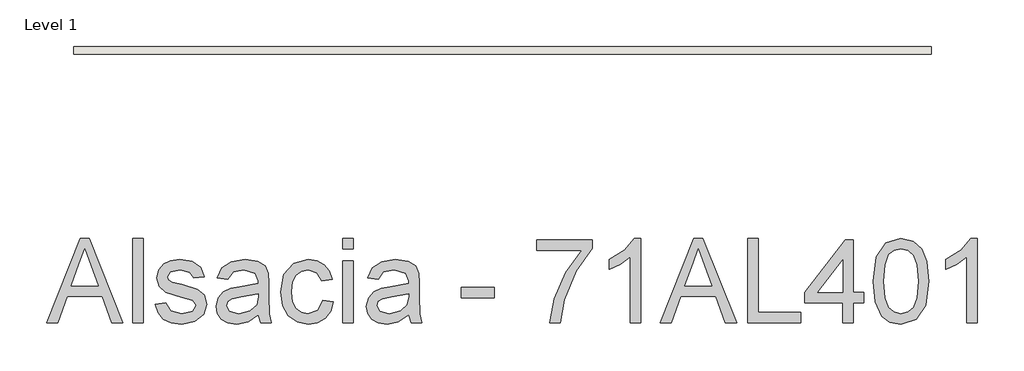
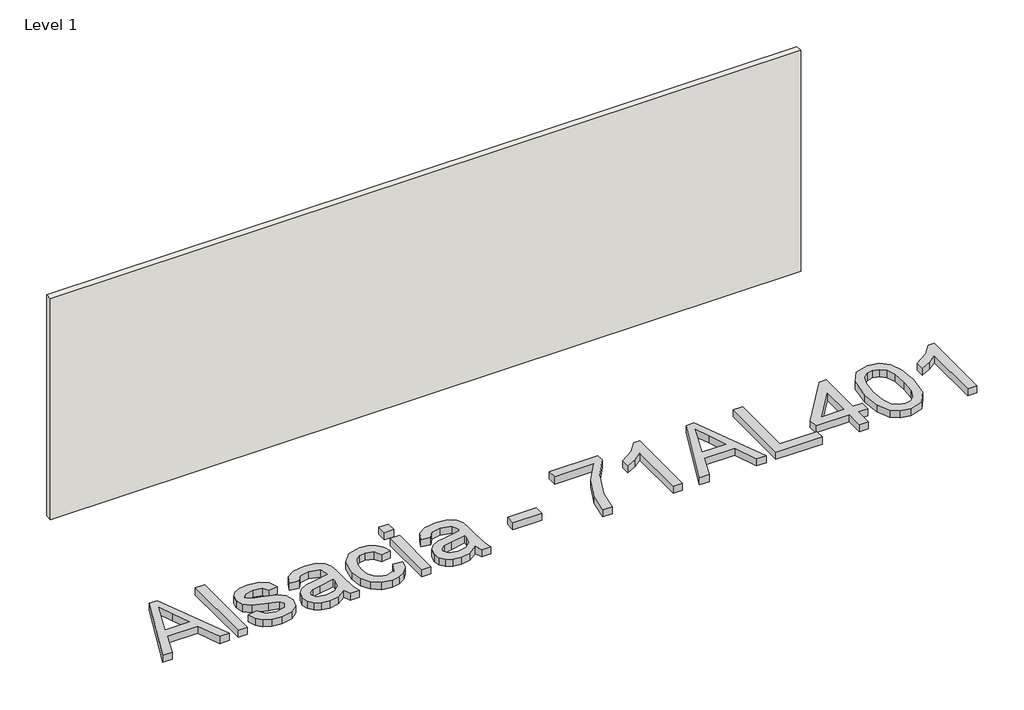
# One storey: 1 proxy, 1 wall.
"""IFC4 building model written with IfcOpenShell, lengths in millimetres."""

from ifc_helpers import new_model, si_unit, origin, origin_with_axes, place, context, project, spatial, polyline, outline, extrude, element, save

model = new_model("IFC4")

# Units and contexts
model_context = context("Model", 3, world=origin())
ifc_project = project(units=[si_unit("LENGTHUNIT", "METRE", prefix="MILLI")], contexts=[model_context])

# Site, building, storey
site = spatial("IfcSite", under=ifc_project)
building = spatial("IfcBuilding", under=site)
storey = spatial("IfcBuildingStorey", under=building, Name="Level 1", Elevation=0.0)

# Proxy
placement = place(None, origin())
element("IfcBuildingElementProxy", 1, Name="24\" Arial", ObjectType="24\" Arial", at=placement, inside=storey, context=model_context, shape_type="SweptSolid", body=[
    extrude(outline(polyline([(-2394.4202482, 2406.5759171), (-2355.1173635, 2505.0374556), (-2344.6365943, 2505.0374556), (-2305.3337097, 2406.5759171), (-2318.3385174, 2406.5759171), (-2329.6125559, 2437.3451479), (-2370.1654405, 2437.3451479), (-2381.4154405, 2406.5759171), (-2394.4202482, 2406.5759171)]), holes=[polyline([(-2365.6462097, 2449.6528402), (-2334.1077482, 2449.6528402), (-2342.9779405, 2473.8595709), (-2349.8769789, 2492.7297632), (-2356.0067866, 2475.9749556), (-2365.6462097, 2449.6528402)])]), origin_with_axes(), (0.0, 0.0, 1.0), 10.0),
    extrude(outline(polyline([(-2293.7231328, 2406.5759171), (-2293.7231328, 2505.0374556), (-2281.4154405, 2505.0374556), (-2281.4154405, 2406.5759171), (-2293.7231328, 2406.5759171)])), origin_with_axes(), (0.0, 0.0, 1.0), 10.0),
    extrude(outline(polyline([(-2267.5692866, 2428.1143786), (-2255.2615943, 2429.6528402), (-2249.5644789, 2420.5182248), (-2236.5115943, 2417.3451479), (-2223.9635174, 2420.2538017), (-2219.8769789, 2427.0807248), (-2223.9875559, 2432.6095709), (-2236.6558251, 2436.1191863), (-2255.1894789, 2442.1408209), (-2263.2784212, 2449.1720709), (-2266.0308251, 2459.0999556), (-2263.8192866, 2468.2706286), (-2257.7856328, 2475.2778402), (-2249.9611135, 2478.9196671), (-2239.3721712, 2480.4220709), (-2224.3962097, 2478.0062056), (-2214.8769789, 2471.467744), (-2210.6462097, 2460.4220709), (-2222.953902, 2458.8836094), (-2227.5813059, 2465.6744748), (-2238.4106328, 2468.1143786), (-2250.1894789, 2465.7826479), (-2253.7231328, 2460.3499556), (-2252.2567866, 2456.7682248), (-2247.6654405, 2454.0518786), (-2237.0644789, 2451.4316863), (-2218.9995751, 2445.6384171), (-2210.610152, 2439.0759171), (-2207.5692866, 2428.3788017), (-2211.1389982, 2416.5999556), (-2221.4394789, 2408.0542825), (-2236.6798635, 2405.0374556), (-2249.0897193, 2406.4917825), (-2258.1462097, 2410.8547632), (-2264.1918828, 2418.0783209), (-2267.5692866, 2428.1143786)])), origin_with_axes(), (0.0, 0.0, 1.0), 10.0),
    extrude(outline(polyline([(-2147.5692866, 2415.8066863), (-2159.5043828, 2407.4653402), (-2172.6894789, 2405.0374556), (-2182.9749357, 2406.4977921), (-2190.5620751, 2410.8788017), (-2195.2405607, 2417.5314459), (-2196.8000559, 2425.8066863), (-2194.4442866, 2435.5422632), (-2188.2543828, 2442.6095709), (-2179.6365943, 2446.6480325), (-2168.9875559, 2448.498994), (-2147.641402, 2452.7297632), (-2147.5692866, 2455.4701479), (-2150.9587097, 2464.5566863), (-2164.5644789, 2468.1143786), (-2177.016402, 2465.7465902), (-2182.953902, 2457.3451479), (-2195.2615943, 2458.8836094), (-2189.9370751, 2470.9028402), (-2179.2159212, 2477.9461094), (-2162.9779405, 2480.4220709), (-2148.0620751, 2478.2345709), (-2139.6365943, 2472.7417825), (-2135.8625559, 2464.3884171), (-2135.2615943, 2453.6191863), (-2135.2615943, 2438.3066863), (-2134.6365943, 2416.9244748), (-2132.1846712, 2406.5759171), (-2144.4923635, 2406.5759171), (-2147.5692866, 2415.8066863)]), holes=[polyline([(-2147.5692866, 2440.4220709), (-2167.4250559, 2436.6480325), (-2178.0139982, 2434.6528402), (-2182.8096712, 2431.4076479), (-2184.4923635, 2426.6720709), (-2180.8264982, 2420.0134171), (-2170.0692866, 2417.3451479), (-2157.6173635, 2420.2898594), (-2149.5885174, 2427.4172632), (-2147.641402, 2436.936494), (-2147.5692866, 2440.4220709)])]), origin_with_axes(), (0.0, 0.0, 1.0), 10.0),
    extrude(outline(polyline([(-2072.1846712, 2432.7297632), (-2059.8769789, 2431.1913017), (-2063.3084693, 2420.2447873), (-2069.7567866, 2411.9725517), (-2078.6149597, 2406.7712296), (-2089.2760174, 2405.0374556), (-2102.3679645, 2407.4563257), (-2112.6053443, 2414.7129363), (-2119.2129164, 2426.4887777), (-2121.4154405, 2442.4653402), (-2117.6534212, 2462.9100517), (-2106.1870751, 2476.0470709), (-2089.4442866, 2480.4220709), (-2079.0446472, 2478.9196671), (-2070.7303443, 2474.4124556), (-2064.765801, 2467.1408209), (-2061.4154405, 2457.3451479), (-2073.7231328, 2455.8066863), (-2079.4322674, 2465.0254363), (-2089.3481328, 2468.1143786), (-2097.3018587, 2466.5939459), (-2103.6149597, 2462.0326479), (-2107.734551, 2454.1840902), (-2109.1077482, 2442.8018786), (-2107.7645991, 2431.2664219), (-2103.735152, 2423.3908209), (-2097.5362337, 2418.8565661), (-2089.6846712, 2417.3451479), (-2078.0861135, 2421.1191863), (-2072.1846712, 2432.7297632)])), origin_with_axes(), (0.0, 0.0, 1.0), 10.0),
    extrude(outline(polyline([(-2049.1077482, 2406.5759171), (-2049.1077482, 2478.8836094), (-2036.8000559, 2478.8836094), (-2036.8000559, 2406.5759171), (-2049.1077482, 2406.5759171)])), origin_with_axes(), (0.0, 0.0, 1.0), 10.0),
    extrude(outline(polyline([(-2049.1077482, 2492.7297632), (-2049.1077482, 2505.0374556), (-2036.8000559, 2505.0374556), (-2036.8000559, 2492.7297632), (-2049.1077482, 2492.7297632)])), origin_with_axes(), (0.0, 0.0, 1.0), 10.0),
    extrude(outline(polyline([(-1972.1846712, 2415.8066863), (-1984.1197674, 2407.4653402), (-1997.3048635, 2405.0374556), (-2007.5903203, 2406.4977921), (-2015.1774597, 2410.8788017), (-2019.8559453, 2417.5314459), (-2021.4154405, 2425.8066863), (-2019.0596712, 2435.5422632), (-2012.8697674, 2442.6095709), (-2004.2519789, 2446.6480325), (-1993.6029405, 2448.498994), (-1972.2567866, 2452.7297632), (-1972.1846712, 2455.4701479), (-1975.5740943, 2464.5566863), (-1989.1798635, 2468.1143786), (-2001.6317866, 2465.7465902), (-2007.5692866, 2457.3451479), (-2019.8769789, 2458.8836094), (-2014.5524597, 2470.9028402), (-2003.8313059, 2477.9461094), (-1987.5933251, 2480.4220709), (-1972.6774597, 2478.2345709), (-1964.2519789, 2472.7417825), (-1960.4779405, 2464.3884171), (-1959.8769789, 2453.6191863), (-1959.8769789, 2438.3066863), (-1959.2519789, 2416.9244748), (-1956.8000559, 2406.5759171), (-1969.1077482, 2406.5759171), (-1972.1846712, 2415.8066863)]), holes=[polyline([(-1972.1846712, 2440.4220709), (-1992.0404405, 2436.6480325), (-2002.6293828, 2434.6528402), (-2007.4250559, 2431.4076479), (-2009.1077482, 2426.6720709), (-2005.4418828, 2420.0134171), (-1994.6846712, 2417.3451479), (-1982.2327482, 2420.2898594), (-1974.203902, 2427.4172632), (-1972.2567866, 2436.936494), (-1972.1846712, 2440.4220709)])]), origin_with_axes(), (0.0, 0.0, 1.0), 10.0),
    extrude(outline(polyline([(-1910.6462097, 2435.8066863), (-1910.6462097, 2448.1143786), (-1872.1846712, 2448.1143786), (-1872.1846712, 2435.8066863), (-1910.6462097, 2435.8066863)])), origin_with_axes(), (0.0, 0.0, 1.0), 10.0),
    extrude(outline(polyline([(-1822.953902, 2491.1913017), (-1822.953902, 2503.498994), (-1758.3385174, 2503.498994), (-1758.3385174, 2493.5470709), (-1776.6678443, 2467.0687056), (-1790.6942866, 2433.3307248), (-1795.2615943, 2406.5759171), (-1807.5692866, 2406.5759171), (-1802.6774597, 2434.3403402), (-1789.2519789, 2465.7225517), (-1770.6462097, 2491.1913017), (-1822.953902, 2491.1913017)])), origin_with_axes(), (0.0, 0.0, 1.0), 10.0),
    extrude(outline(polyline([(-1701.4154405, 2406.5759171), (-1713.7231328, 2406.5759171), (-1713.7231328, 2483.3066863), (-1725.3817866, 2475.0013979), (-1738.3385174, 2468.7874556), (-1738.3385174, 2480.4220709), (-1720.297652, 2491.936494), (-1709.3481328, 2505.0374556), (-1701.4154405, 2505.0374556), (-1701.4154405, 2406.5759171)])), origin_with_axes(), (0.0, 0.0, 1.0), 10.0),
    extrude(outline(polyline([(-1679.0356328, 2406.5759171), (-1639.7327482, 2505.0374556), (-1629.2519789, 2505.0374556), (-1589.9490943, 2406.5759171), (-1602.953902, 2406.5759171), (-1614.2279405, 2437.3451479), (-1654.7808251, 2437.3451479), (-1666.0308251, 2406.5759171), (-1679.0356328, 2406.5759171)]), holes=[polyline([(-1650.2615943, 2449.6528402), (-1618.7231328, 2449.6528402), (-1627.5933251, 2473.8595709), (-1634.4923635, 2492.7297632), (-1640.6221712, 2475.9749556), (-1650.2615943, 2449.6528402)])]), origin_with_axes(), (0.0, 0.0, 1.0), 10.0),
    extrude(outline(polyline([(-1576.8000559, 2406.5759171), (-1576.8000559, 2505.0374556), (-1564.4923635, 2505.0374556), (-1564.4923635, 2418.8836094), (-1515.2615943, 2418.8836094), (-1515.2615943, 2406.5759171), (-1576.8000559, 2406.5759171)])), origin_with_axes(), (0.0, 0.0, 1.0), 10.0),
    extrude(outline(polyline([(-1466.0308251, 2406.5759171), (-1466.0308251, 2429.6528402), (-1510.6462097, 2429.6528402), (-1510.6462097, 2441.9605325), (-1462.953902, 2503.498994), (-1453.7231328, 2503.498994), (-1453.7231328, 2441.9605325), (-1441.4154405, 2441.9605325), (-1441.4154405, 2429.6528402), (-1453.7231328, 2429.6528402), (-1453.7231328, 2406.5759171), (-1466.0308251, 2406.5759171)]), holes=[polyline([(-1466.0308251, 2441.9605325), (-1466.0308251, 2479.9893786), (-1495.5019789, 2441.9605325), (-1466.0308251, 2441.9605325)])]), origin_with_axes(), (0.0, 0.0, 1.0), 10.0),
    extrude(outline(polyline([(-1430.6462097, 2455.0134171), (-1427.0284212, 2483.342744), (-1416.2832289, 2499.6768786), (-1398.3385174, 2505.0374556), (-1383.9635174, 2501.8643786), (-1374.0356328, 2492.717744), (-1368.266402, 2478.1504363), (-1366.0308251, 2455.0134171), (-1369.6125559, 2426.8042825), (-1380.3216905, 2410.4340902), (-1398.3385174, 2405.0374556), (-1411.1269789, 2407.3812056), (-1420.8385174, 2414.4124556), (-1428.1942866, 2431.0650998), (-1430.6462097, 2455.0134171)]), holes=[polyline([(-1418.3385174, 2455.0374556), (-1416.8962097, 2435.6774796), (-1412.5692866, 2424.4725517), (-1406.1269789, 2419.1269988), (-1398.3385174, 2417.3451479), (-1390.5500559, 2419.1330084), (-1384.1077482, 2424.4965902), (-1379.7808251, 2435.7075277), (-1378.3385174, 2455.0374556), (-1379.7327482, 2473.9617344), (-1383.9154405, 2485.2538017), (-1390.3457289, 2490.8607729), (-1398.4827482, 2492.7297632), (-1406.1870751, 2491.0831286), (-1412.3769789, 2486.1432248), (-1416.8481328, 2474.1480325), (-1418.3385174, 2455.0374556)])]), origin_with_axes(), (0.0, 0.0, 1.0), 10.0),
    extrude(outline(polyline([(-1309.1077482, 2406.5759171), (-1321.4154405, 2406.5759171), (-1321.4154405, 2483.3066863), (-1333.0740943, 2475.0013979), (-1346.0308251, 2468.7874556), (-1346.0308251, 2480.4220709), (-1327.9899597, 2491.936494), (-1317.0404405, 2505.0374556), (-1309.1077482, 2505.0374556), (-1309.1077482, 2406.5759171)])), origin_with_axes(), (0.0, 0.0, 1.0), 10.0),
])

# Wall
element("IfcWall", 2, ObjectType="31.5x 100 Alsacia revestimiento_Acabados Alsacia", at=placement, inside=storey, context=model_context, shape_type="SweptSolid", body=[
    extrude(outline(polyline([(-1362.8320531, 2720.4194162), (-2362.8320531, 2720.4194162), (-2362.8320531, 2729.1194162), (-1362.8320531, 2729.1194162), (-1362.8320531, 2720.4194162)])), origin_with_axes(), (0.0, 0.0, 1.0), 311.1998052),
])

save(model, "model.ifc")
